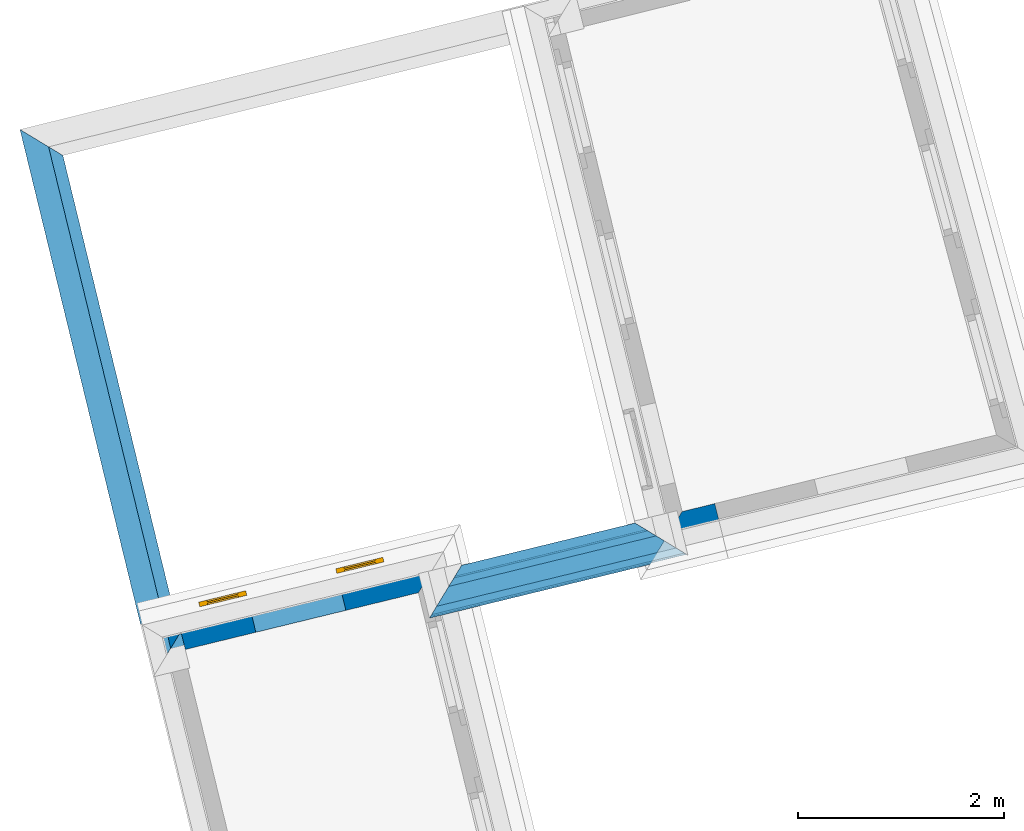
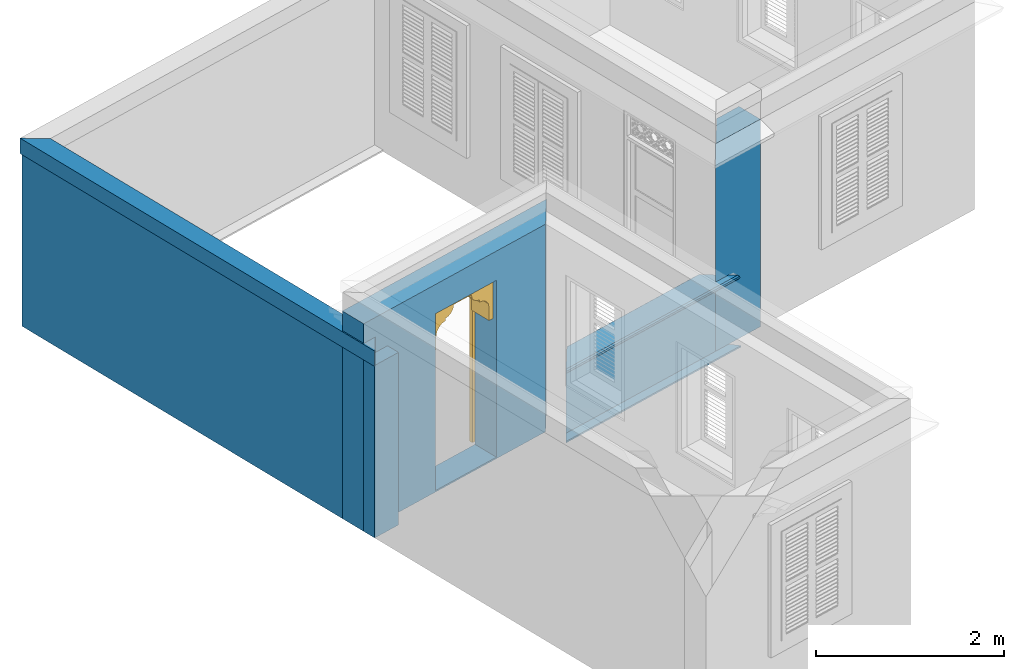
# One storey, part 2 of 7: 8 walls, 1 door, 1 opening.
"""IFC4 building model written with IfcOpenShell, lengths in metres."""

from ifc_helpers import new_model, si_unit, frame, origin, origin_with_axes, place, context, subcontext, project, spatial, polyline, outline, extrude, clip, halfspace, faceted_brep, source, transform, mapped, material, layer, layer_set, layer_usage, material_profile, profile_set, profile_usage, type_object, type_shapes, element, fill, save


model = new_model("IFC4")

# Units and contexts
model_context = context("Model", 3, world=origin_with_axes())
body_context = subcontext(model_context, "Body", "Model", "MODEL_VIEW")
ifc_project = project(units=[si_unit("PLANEANGLEUNIT", "RADIAN"), si_unit("MASSUNIT", "GRAM", prefix="KILO"), si_unit("FORCEUNIT", "NEWTON", prefix="KILO"), si_unit("LENGTHUNIT", "METRE"), si_unit("AREAUNIT", "SQUARE_METRE"), si_unit("VOLUMEUNIT", "CUBIC_METRE")], contexts=[model_context, model_context])

# Site, building, storey
site_placement = place(None, origin_with_axes())
site = spatial("IfcSite", under=ifc_project, at=site_placement, Name="Site plot-4", CompositionType="ELEMENT")
building_placement = place(None, origin_with_axes())
building = spatial("IfcBuilding", under=site, at=building_placement, Name="Building plot-4", CompositionType="ELEMENT")
storey_placement = place(None, frame((0.0, 0.0, 5.4), z_axis=(0.0, 0.0, 1.0), x_axis=(1.0, 0.0, 0.0)))
storey = spatial("IfcBuildingStorey", under=building, at=storey_placement, Name="plot-4 2", CompositionType="ELEMENT", Elevation=5.4)

# Wall
ifc_material = material(Name="Masonry")
ifc_layer = layer(ifc_material, 0.33, ventilated=False)
ifc_layer_set = layer_set([ifc_layer], Name="exterior_0.08_0.25")
ifc_layer_usage = layer_usage(ifc_layer_set, "AXIS2", "POSITIVE", -0.25)
wall_type_1 = type_object("IfcWallType", Name="exterior_0.08_0.25", PredefinedType="SOLIDWALL", material=ifc_layer_set)
wall_1_placement = place(storey_placement, frame((23.4069703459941, 15.6198881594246, 0.0), z_axis=(0.0, 0.0, 1.0), x_axis=(0.971605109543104, 0.236608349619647, 0.0)))
element("IfcWall", 1, at=wall_1_placement, inside=storey, type_object=wall_type_1, material=ifc_layer_usage, Name="exterior", context=body_context, shape_type="SweptSolid", body=[
    extrude(outline(polyline([(0.0800000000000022, 0.0800000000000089), (-0.250000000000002, -0.250000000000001), (0.407279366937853, -0.25), (0.407279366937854, 0.0800000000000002), (0.0800000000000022, 0.0800000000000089)])), origin_with_axes(), (0.0, 0.0, 1.0), 2.7),
])

# Wall, opening, door
wall_2_placement = place(storey_placement, frame((20.9644587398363, 15.0250800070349, 0.0), z_axis=(0.0, 0.0, 1.0), x_axis=(-0.971605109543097, -0.236608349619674, 0.0)))
wall_2 = element("IfcWall", 2, at=wall_2_placement, inside=storey, type_object=wall_type_1, material=ifc_layer_usage, Name="exterior", context=body_context, shape_type="SweptSolid", body=[
    extrude(outline(polyline([(0.0799999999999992, 0.0800000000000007), (-0.250000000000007, -0.249999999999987), (2.76001848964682, -0.25), (2.76001848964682, 0.0800000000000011), (0.0799999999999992, 0.0800000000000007)])), origin_with_axes(), (0.0, 0.0, 1.0), 2.7),
])
opening_placement = place(wall_2_placement, frame((0.805009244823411, 0.0, 0.0199999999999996)))
opening = element("IfcOpeningElement", 3, at=opening_placement, cuts=wall_2, Name="My Opening", ObjectType="Opening", context=body_context, shape_type="SweptSolid", body=[
    extrude(outline(polyline([(0.0, -0.27), (0.9, -0.27), (0.900000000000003, 1.1), (2.66453525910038e-15, 1.1), (0.0, -0.27)])), origin_with_axes(), (0.0, 0.0, 1.0), 2.3),
])
door_type = type_object("IfcDoorType", Name="arch-900x2300", OperationType="SINGLE_SWING_LEFT", PredefinedType="NOTDEFINED")
shared_shape = source(origin(), body_context, "Body", "Brep", [
    faceted_brep([(-0.08, -0.02, 0.08), (-0.08, -0.02, 0.0), (-0.39, -0.02, 0.0), (-0.39, -0.02, 0.08), (-0.47, -0.02, 0.0), (-0.47, -0.02, 0.08), (-0.39, -0.035, 0.08), (-0.08, -0.035, 0.08), (0.0, -0.02, 0.08), (0.0, -0.02, 0.0), (-0.08, -0.066, 0.0), (-0.39, -0.066, 0.0), (-0.47, -0.066, 0.0), (-0.47, -0.066, 0.08), (-0.39, -0.02, 0.743333), (-0.47, -0.02, 0.743333), (-0.39, -0.035, 0.743333), (-0.08, -0.035, 0.743333), (-0.08, -0.02, 0.743333), (0.0, -0.02, 0.743333), (0.0, -0.066, 0.08), (0.0, -0.066, 0.0), (-0.39, -0.066, 0.08), (-0.08, -0.066, 0.08), (-0.47, -0.066, 0.743333), (-0.39, -0.02, 0.823333), (-0.47, -0.02, 0.823333), (0.0, -0.066, 0.743333), (0.0, -0.02, 0.823333), (-0.08, -0.02, 0.823333), (-0.08, -0.051, 0.08), (-0.39, -0.051, 0.08), (-0.39, -0.066, 0.743333), (-0.47, -0.066, 0.823333), (-0.39, -0.02, 1.486667), (-0.47, -0.02, 1.486667), (0.0, -0.066, 0.823333), (-0.08, -0.066, 0.743333), (0.0, -0.02, 1.486667), (-0.08, -0.02, 1.486667), (-0.08, -0.051, 0.743333), (-0.39, -0.051, 0.743333), (-0.39, -0.066, 0.823333), (-0.47, -0.066, 1.486667), (-0.39, -0.035, 0.823333), (-0.08, -0.035, 0.823333), (-0.39, -0.035, 1.486667), (-0.39, -0.02, 1.566667), (-0.47, -0.02, 1.566667), (0.0, -0.066, 1.486667), (-0.08, -0.066, 0.823333), (-0.08, -0.035, 1.486667), (0.0, -0.02, 1.566667), (-0.08, -0.02, 1.566667), (-0.39, -0.066, 1.486667), (-0.47, -0.066, 1.566667), (-0.39, -0.02, 2.23), (-0.47, -0.02, 2.23), (0.0, -0.066, 1.566667), (-0.08, -0.066, 1.486667), (0.0, -0.02, 2.23), (-0.08, -0.02, 2.23), (-0.08, -0.051, 0.823333), (-0.39, -0.051, 0.823333), (-0.39, -0.051, 1.486667), (-0.39, -0.066, 1.566667), (-0.47, -0.066, 2.23), (-0.39, -0.035, 1.566667), (-0.08, -0.035, 1.566667), (-0.39, -0.035, 2.23), (-0.39, -0.02, 2.31), (-0.47, -0.02, 2.31), (0.0, -0.066, 2.23), (-0.08, -0.066, 1.566667), (-0.08, -0.051, 1.486667), (-0.08, -0.035, 2.23), (0.0, -0.02, 2.31), (-0.08, -0.02, 2.31), (-0.39, -0.066, 2.23), (-0.47, -0.066, 2.31), (-0.39, -0.066, 2.31), (0.0, -0.066, 2.31), (-0.08, -0.066, 2.23), (-0.08, -0.066, 2.31), (-0.08, -0.051, 1.566667), (-0.39, -0.051, 1.566667), (-0.39, -0.051, 2.23), (-0.08, -0.051, 2.23), (1.29, -0.02, 0.08), (1.29, -0.02, 0.0), (0.98, -0.02, 0.0), (0.98, -0.02, 0.08), (1.37, -0.02, 0.08), (1.37, -0.02, 0.0), (0.98, -0.035, 0.08), (1.29, -0.035, 0.08), (0.9, -0.02, 0.0), (0.9, -0.02, 0.08), (1.29, -0.066, 0.0), (0.98, -0.066, 0.0), (1.37, -0.066, 0.08), (1.37, -0.066, 0.0), (1.37, -0.02, 0.743333), (1.29, -0.02, 0.743333), (1.29, -0.035, 0.743333), (0.98, -0.035, 0.743333), (0.98, -0.02, 0.743333), (0.9, -0.02, 0.743333), (0.9, -0.066, 0.0), (0.9, -0.066, 0.08), (0.98, -0.066, 0.08), (1.29, -0.066, 0.08), (1.37, -0.066, 0.743333), (1.37, -0.02, 0.823333), (1.29, -0.02, 0.823333), (0.9, -0.066, 0.743333), (0.98, -0.02, 0.823333), (0.9, -0.02, 0.823333), (1.29, -0.051, 0.08), (0.98, -0.051, 0.08), (1.29, -0.066, 0.743333), (1.37, -0.066, 0.823333), (1.37, -0.02, 1.486667), (1.29, -0.02, 1.486667), (0.9, -0.066, 0.823333), (0.98, -0.066, 0.743333), (0.98, -0.02, 1.486667), (0.9, -0.02, 1.486667), (0.98, -0.051, 0.743333), (1.29, -0.051, 0.743333), (1.29, -0.066, 0.823333), (1.37, -0.066, 1.486667), (0.98, -0.035, 0.823333), (1.29, -0.035, 0.823333), (1.29, -0.035, 1.486667), (1.37, -0.02, 1.566667), (1.29, -0.02, 1.566667), (0.9, -0.066, 1.486667), (0.98, -0.066, 0.823333), (0.98, -0.035, 1.486667), (0.98, -0.02, 1.566667), (0.9, -0.02, 1.566667), (1.29, -0.066, 1.486667), (1.37, -0.066, 1.566667), (1.37, -0.02, 2.23), (1.29, -0.02, 2.23), (0.9, -0.066, 1.566667), (0.98, -0.066, 1.486667), (0.98, -0.02, 2.23), (0.9, -0.02, 2.23), (1.29, -0.051, 0.823333), (0.98, -0.051, 0.823333), (1.29, -0.051, 1.486667), (1.29, -0.066, 1.566667), (1.37, -0.066, 2.23), (0.98, -0.035, 1.566667), (1.29, -0.035, 1.566667), (1.29, -0.035, 2.23), (1.37, -0.02, 2.31), (1.29, -0.02, 2.31), (0.9, -0.066, 2.23), (0.98, -0.066, 1.566667), (0.98, -0.051, 1.486667), (0.98, -0.035, 2.23), (0.98, -0.02, 2.31), (0.9, -0.02, 2.31), (1.29, -0.066, 2.23), (1.37, -0.066, 2.31), (1.29, -0.066, 2.31), (0.9, -0.066, 2.31), (0.98, -0.066, 2.23), (0.98, -0.066, 2.31), (1.29, -0.051, 1.566667), (0.98, -0.051, 1.566667), (1.29, -0.051, 2.23), (0.98, -0.051, 2.23), (0.9, 0.03, 1.78), (0.9, 0.03, 1.95), (0.84, 0.03, 1.95), (0.84, 0.03, 1.78), (0.84, 0.3, 1.95), (0.84, 0.3, 1.78), (0.9, 0.03, 2.12), (0.829, 0.03, 2.004), (0.9, 0.3, 1.78), (0.9, 0.3, 1.95), (0.829, 0.3, 2.004), (0.799, 0.03, 2.049), (0.9, 0.3, 2.12), (0.799, 0.3, 2.049), (0.754, 0.03, 2.079), (0.9, 0.3, 2.29), (0.9, 0.03, 2.29), (0.754, 0.3, 2.079), (0.7, 0.03, 2.09), (0.7, 0.03, 2.12), (0.654, 0.03, 2.129), (0.58, 0.3, 2.29), (0.58, 0.03, 2.29), (0.7, 0.3, 2.12), (0.654, 0.3, 2.129), (0.7, 0.3, 2.09), (0.615, 0.03, 2.155), (0.589, 0.3, 2.194), (0.58, 0.3, 2.24), (0.58, 0.03, 2.24), (0.589, 0.03, 2.194), (0.615, 0.3, 2.155), (0.06, 0.03, 1.78), (0.06, 0.03, 1.95), (0.0, 0.03, 1.95), (0.0, 0.03, 1.78), (0.06, 0.3, 1.78), (0.06, 0.3, 1.95), (0.071, 0.03, 2.004), (0.0, 0.03, 2.12), (0.0, 0.3, 1.95), (0.0, 0.3, 1.78), (0.071, 0.3, 2.004), (0.101, 0.03, 2.049), (0.0, 0.3, 2.12), (0.101, 0.3, 2.049), (0.146, 0.03, 2.079), (0.0, 0.03, 2.29), (0.0, 0.3, 2.29), (0.146, 0.3, 2.079), (0.2, 0.03, 2.12), (0.2, 0.03, 2.09), (0.246, 0.03, 2.129), (0.32, 0.03, 2.29), (0.32, 0.3, 2.29), (0.246, 0.3, 2.129), (0.2, 0.3, 2.12), (0.2, 0.3, 2.09), (0.285, 0.03, 2.155), (0.32, 0.3, 2.24), (0.311, 0.3, 2.194), (0.311, 0.03, 2.194), (0.32, 0.03, 2.24), (0.285, 0.3, 2.155)], [[[0, 1, 2, 3]], [[4, 5, 3, 2]], [[0, 3, 6, 7]], [[1, 0, 8, 9]], [[2, 1, 10, 11]], [[5, 4, 12, 13]], [[14, 3, 5, 15]], [[4, 2, 11, 12]], [[3, 14, 16, 6]], [[6, 16, 17, 7]], [[18, 0, 7, 17]], [[0, 18, 19, 8]], [[9, 8, 20, 21]], [[1, 9, 21, 10]], [[22, 11, 10, 23]], [[13, 12, 11, 22]], [[15, 5, 13, 24]], [[25, 14, 15, 26]], [[14, 18, 17, 16]], [[8, 19, 27, 20]], [[28, 19, 18, 29]], [[23, 10, 21, 20]], [[22, 23, 30, 31]], [[22, 32, 24, 13]], [[26, 15, 24, 33]], [[29, 18, 14, 25]], [[34, 25, 26, 35]], [[19, 28, 36, 27]], [[20, 27, 37, 23]], [[38, 28, 29, 39]], [[23, 37, 40, 30]], [[41, 31, 30, 40]], [[32, 22, 31, 41]], [[32, 42, 33, 24]], [[35, 26, 33, 43]], [[29, 25, 44, 45]], [[25, 34, 46, 44]], [[47, 34, 35, 48]], [[28, 38, 49, 36]], [[27, 36, 50, 37]], [[39, 29, 45, 51]], [[52, 38, 39, 53]], [[37, 32, 41, 40]], [[37, 50, 42, 32]], [[42, 54, 43, 33]], [[48, 35, 43, 55]], [[44, 46, 51, 45]], [[34, 39, 51, 46]], [[34, 47, 53, 39]], [[56, 47, 48, 57]], [[38, 52, 58, 49]], [[36, 49, 59, 50]], [[60, 52, 53, 61]], [[42, 50, 62, 63]], [[54, 42, 63, 64]], [[54, 65, 55, 43]], [[57, 48, 55, 66]], [[53, 47, 67, 68]], [[47, 56, 69, 67]], [[70, 56, 57, 71]], [[52, 60, 72, 58]], [[49, 58, 73, 59]], [[50, 59, 74, 62]], [[61, 53, 68, 75]], [[76, 60, 61, 77]], [[64, 63, 62, 74]], [[59, 54, 64, 74]], [[65, 54, 59, 73]], [[65, 78, 66, 55]], [[71, 57, 66, 79]], [[67, 69, 75, 68]], [[56, 61, 75, 69]], [[77, 61, 56, 70]], [[70, 71, 79, 80]], [[60, 76, 81, 72]], [[58, 72, 82, 73]], [[76, 77, 83, 81]], [[65, 73, 84, 85]], [[78, 65, 85, 86]], [[78, 80, 79, 66]], [[77, 70, 80, 83]], [[72, 81, 83, 82]], [[73, 82, 87, 84]], [[86, 85, 84, 87]], [[82, 78, 86, 87]], [[82, 83, 80, 78]], [[88, 89, 90, 91]], [[89, 88, 92, 93]], [[94, 95, 88, 91]], [[96, 97, 91, 90]], [[98, 99, 90, 89]], [[100, 101, 93, 92]], [[102, 92, 88, 103]], [[101, 98, 89, 93]], [[95, 104, 103, 88]], [[94, 105, 104, 95]], [[105, 94, 91, 106]], [[97, 107, 106, 91]], [[108, 109, 97, 96]], [[99, 108, 96, 90]], [[110, 99, 98, 111]], [[111, 98, 101, 100]], [[112, 100, 92, 102]], [[113, 102, 103, 114]], [[104, 105, 106, 103]], [[109, 115, 107, 97]], [[116, 106, 107, 117]], [[109, 108, 99, 110]], [[118, 119, 110, 111]], [[100, 112, 120, 111]], [[121, 112, 102, 113]], [[114, 103, 106, 116]], [[122, 113, 114, 123]], [[115, 124, 117, 107]], [[110, 125, 115, 109]], [[126, 116, 117, 127]], [[119, 128, 125, 110]], [[128, 119, 118, 129]], [[129, 118, 111, 120]], [[112, 121, 130, 120]], [[131, 121, 113, 122]], [[132, 133, 114, 116]], [[133, 134, 123, 114]], [[135, 122, 123, 136]], [[124, 137, 127, 117]], [[125, 138, 124, 115]], [[139, 132, 116, 126]], [[140, 126, 127, 141]], [[128, 129, 120, 125]], [[120, 130, 138, 125]], [[121, 131, 142, 130]], [[143, 131, 122, 135]], [[132, 139, 134, 133]], [[134, 139, 126, 123]], [[126, 140, 136, 123]], [[144, 135, 136, 145]], [[137, 146, 141, 127]], [[138, 147, 137, 124]], [[148, 140, 141, 149]], [[150, 151, 138, 130]], [[152, 150, 130, 142]], [[131, 143, 153, 142]], [[154, 143, 135, 144]], [[155, 156, 136, 140]], [[156, 157, 145, 136]], [[158, 144, 145, 159]], [[146, 160, 149, 141]], [[147, 161, 146, 137]], [[151, 162, 147, 138]], [[163, 155, 140, 148]], [[164, 148, 149, 165]], [[162, 151, 150, 152]], [[162, 152, 142, 147]], [[161, 147, 142, 153]], [[143, 154, 166, 153]], [[167, 154, 144, 158]], [[155, 163, 157, 156]], [[157, 163, 148, 145]], [[159, 145, 148, 164]], [[168, 167, 158, 159]], [[160, 169, 165, 149]], [[161, 170, 160, 146]], [[169, 171, 164, 165]], [[172, 173, 161, 153]], [[174, 172, 153, 166]], [[154, 167, 168, 166]], [[171, 168, 159, 164]], [[170, 171, 169, 160]], [[173, 175, 170, 161]], [[175, 173, 172, 174]], [[175, 174, 166, 170]], [[166, 168, 171, 170]], [[176, 177, 178, 179]], [[180, 181, 179, 178]], [[177, 182, 183, 178]], [[177, 176, 184, 185]], [[181, 184, 176, 179]], [[181, 180, 185, 184]], [[186, 180, 178, 183]], [[182, 187, 183]], [[182, 177, 185, 188]], [[180, 186, 188, 185]], [[189, 186, 183, 187]], [[182, 190, 187]], [[188, 191, 192, 182]], [[188, 186, 189]], [[193, 189, 187, 190]], [[194, 190, 182, 195]], [[182, 192, 196, 195]], [[192, 191, 197, 198]], [[199, 200, 191, 188]], [[188, 189, 193]], [[201, 193, 190, 194]], [[199, 201, 194, 195]], [[200, 199, 195, 196]], [[192, 202, 196]], [[191, 203, 204, 197]], [[192, 198, 205, 206]], [[207, 191, 200]], [[199, 188, 193, 201]], [[207, 200, 196, 202]], [[192, 206, 202]], [[204, 203, 206, 205]], [[203, 191, 207]], [[203, 207, 202, 206]], [[208, 209, 210, 211]], [[209, 208, 212, 213]], [[209, 214, 215, 210]], [[211, 210, 216, 217]], [[208, 211, 217, 212]], [[217, 216, 213, 212]], [[214, 209, 213, 218]], [[214, 219, 215]], [[220, 216, 210, 215]], [[216, 220, 218, 213]], [[219, 214, 218, 221]], [[219, 222, 215]], [[215, 223, 224, 220]], [[221, 218, 220]], [[222, 219, 221, 225]], [[226, 215, 222, 227]], [[226, 228, 223, 215]], [[229, 230, 224, 223]], [[220, 224, 231, 232]], [[225, 221, 220]], [[227, 222, 225, 233]], [[226, 227, 233, 232]], [[228, 226, 232, 231]], [[228, 234, 223]], [[230, 235, 236, 224]], [[237, 238, 229, 223]], [[231, 224, 239]], [[233, 225, 220, 232]], [[234, 228, 231, 239]], [[234, 237, 223]], [[238, 237, 236, 235]], [[239, 224, 236]], [[237, 234, 239, 236]], [[238, 235, 204, 205]], [[235, 230, 197, 204]], [[229, 238, 205, 198]], [[230, 229, 198, 197]]]),
])
type_shapes(door_type, [shared_shape])
door_placement = place(storey_placement, frame((20.1184233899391, 15.0969414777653, 0.0199999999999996), z_axis=(0.0, 0.0, 1.0), x_axis=(-0.874444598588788, -0.212947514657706, 0.0)))
door = element("IfcDoor", 4, at=door_placement, inside=storey, type_object=door_type, Name="circulation sahn door", OverallHeight=2.3, OverallWidth=0.9, context=body_context, shape_type="MappedRepresentation", body=[
    mapped(shared_shape, transform((0.0, 0.0, 0.0), scale=1.0)),
])
fill(opening, door)

# Walls
ifc_material_profile_1 = material_profile(None, outline(polyline([(0.25, 0.0), (0.25, 2.245), (0.05, 2.245), (0.05, 0.02), (-0.08, 0.02), (-0.08, 0.0), (0.25, 0.0)])))
ifc_profile_set_1 = profile_set([ifc_material_profile_1])
ifc_profile_usage_1 = profile_usage(ifc_profile_set_1)
wall_type_2 = type_object("IfcWallType", Name="parapet party_0", PredefinedType="PARAPET", material=ifc_profile_set_1)
wall_3_placement = place(storey_placement, frame((18.7623202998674, 13.4595835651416, 0.0), z_axis=(-0.236608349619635, 0.971605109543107, 0.0), x_axis=(-0.971605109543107, -0.236608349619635, 0.0)))
element("IfcWall", 5, at=wall_3_placement, inside=storey, type_object=wall_type_2, material=ifc_profile_usage_1, Name="parapet party_0", context=body_context, shape_type="Clipping", body=[
    clip(clip(extrude(outline(polyline([(0.25, 0.0), (0.25, 2.245), (0.05, 2.245), (0.05, 0.02), (-0.08, 0.02), (-0.08, 0.0), (0.25, 0.0)])), origin_with_axes(), (0.0, 0.0, 1.0), 6.94233801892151), halfspace(frame((0.0, 0.0, 5.94233801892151), z_axis=(0.705779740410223, 0.0, -0.708431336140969), x_axis=(0.0, 1.0, 0.0)), True)), halfspace(frame((0.0, 0.0, 1.0), z_axis=(-0.707106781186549, 0.0, -0.707106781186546), x_axis=(0.0, 1.0, 0.0)), False)),
])
ifc_profile_usage_2 = profile_usage(ifc_profile_set_1)
wall_4_placement = place(storey_placement, frame((19.5944775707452, 14.6914578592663, 0.0), z_axis=(-0.971605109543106, -0.23660834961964, 0.0), x_axis=(0.23660834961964, -0.971605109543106, 0.0)))
element("IfcWall", 6, at=wall_4_placement, inside=storey, type_object=wall_type_2, material=ifc_profile_usage_2, Name="parapet party_0", context=body_context, shape_type="Clipping", body=[
    clip(clip(extrude(outline(polyline([(0.25, 0.0), (0.25, 2.245), (0.05, 2.245), (0.05, 0.02), (-0.08, 0.02), (-0.08, 0.0), (0.25, 0.0)])), origin_with_axes(), (0.0, 0.0, 1.0), 2.1), halfspace(frame((0.0, 0.0, 1.1), z_axis=(0.70710678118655, 0.0, -0.707106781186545), x_axis=(0.0, 1.0, 0.0)), True)), halfspace(frame((0.0, 0.0, 1.0), z_axis=(-6.12323399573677e-17, 0.0, -1.0), x_axis=(0.0, 1.0, 0.0)), False)),
])
ifc_material_profile_2 = material_profile(None, outline(polyline([(0.265, 2.245), (0.265, 2.445), (0.035, 2.445), (0.035, 2.245), (0.265, 2.245)])))
ifc_profile_set_2 = profile_set([ifc_material_profile_2])
ifc_profile_usage_3 = profile_usage(ifc_profile_set_2)
wall_type_3 = type_object("IfcWallType", Name="parapet party_1", PredefinedType="PARAPET", material=ifc_profile_set_2)
wall_5_placement = place(storey_placement, frame((18.7623202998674, 13.4595835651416, 0.0), z_axis=(-0.236608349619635, 0.971605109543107, 0.0), x_axis=(-0.971605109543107, -0.236608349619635, 0.0)))
element("IfcWall", 7, at=wall_5_placement, inside=storey, type_object=wall_type_3, material=ifc_profile_usage_3, Name="parapet party_1", context=body_context, shape_type="Clipping", body=[
    clip(clip(extrude(outline(polyline([(0.265, 2.245), (0.265, 2.445), (0.035, 2.445), (0.035, 2.245), (0.265, 2.245)])), origin_with_axes(), (0.0, 0.0, 1.0), 6.94233801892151), halfspace(frame((0.0, 0.0, 5.94233801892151), z_axis=(0.705779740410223, 0.0, -0.708431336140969), x_axis=(0.0, 1.0, 0.0)), True)), halfspace(frame((0.0, 0.0, 1.0), z_axis=(-0.707106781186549, 0.0, -0.707106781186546), x_axis=(0.0, 1.0, 0.0)), False)),
])
ifc_material_profile_3 = material_profile(None, outline(polyline([(0.25, 0.0), (0.25, 0.795), (0.09, 0.795), (0.09, 0.02), (-0.08, 0.02), (-0.08, 0.0), (0.25, 0.0)])))
ifc_profile_set_3 = profile_set([ifc_material_profile_3])
ifc_profile_usage_4 = profile_usage(ifc_profile_set_3)
wall_type_4 = type_object("IfcWallType", Name="parapet internal_0", PredefinedType="PARAPET", material=ifc_profile_set_3)
wall_6_placement = place(storey_placement, frame((24.0773778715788, 15.7831479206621, 0.0), z_axis=(-0.971605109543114, -0.236608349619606, 0.0), x_axis=(0.236608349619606, -0.971605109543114, 0.0)))
element("IfcWall", 8, at=wall_6_placement, inside=storey, type_object=wall_type_4, material=ifc_profile_usage_4, Name="parapet internal_0", context=body_context, shape_type="Clipping", body=[
    clip(clip(extrude(outline(polyline([(0.25, 0.0), (0.25, 0.795), (0.09, 0.795), (0.09, 0.02), (-0.08, 0.02), (-0.08, 0.0), (0.25, 0.0)])), origin_with_axes(), (0.0, 0.0, 1.0), 3.89389333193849), halfspace(frame((0.0, 0.0, 2.89389333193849), z_axis=(0.707106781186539, 0.0, -0.707106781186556), x_axis=(0.0, 1.0, 0.0)), True)), halfspace(frame((0.0, 0.0, 1.0), z_axis=(-0.707106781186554, 0.0, -0.70710678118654), x_axis=(0.0, 1.0, 0.0)), False)),
])
ifc_material_profile_4 = material_profile(None, outline(polyline([(0.265, 0.795), (0.268, 0.807), (0.274, 0.816), (0.283, 0.822), (0.295, 0.825), (0.295, 0.84), (0.305, 0.84), (0.317, 0.842), (0.326, 0.849), (0.333, 0.858), (0.335, 0.87), (0.333, 0.882), (0.326, 0.891), (0.317, 0.898), (0.305, 0.9), (0.035, 0.9), (0.023, 0.898), (0.014, 0.891), (0.007, 0.882), (0.005, 0.87), (0.007, 0.858), (0.014, 0.849), (0.023, 0.842), (0.035, 0.84), (0.045, 0.84), (0.045, 0.825), (0.057, 0.822), (0.066, 0.816), (0.072, 0.807), (0.075, 0.795), (0.265, 0.795)])))
ifc_profile_set_4 = profile_set([ifc_material_profile_4])
ifc_profile_usage_5 = profile_usage(ifc_profile_set_4)
wall_type_5 = type_object("IfcWallType", Name="parapet internal_1", PredefinedType="PARAPET", material=ifc_profile_set_4)
wall_7_placement = place(storey_placement, frame((24.0773778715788, 15.7831479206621, 0.0), z_axis=(-0.971605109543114, -0.236608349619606, 0.0), x_axis=(0.236608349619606, -0.971605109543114, 0.0)))
element("IfcWall", 9, at=wall_7_placement, inside=storey, type_object=wall_type_5, material=ifc_profile_usage_5, Name="parapet internal_1", context=body_context, shape_type="Clipping", body=[
    clip(clip(extrude(outline(polyline([(0.265, 0.795), (0.268, 0.807), (0.274, 0.816), (0.283, 0.822), (0.295, 0.825), (0.295, 0.84), (0.305, 0.84), (0.317, 0.842), (0.326, 0.849), (0.333, 0.858), (0.335, 0.87), (0.333, 0.882), (0.326, 0.891), (0.317, 0.898), (0.305, 0.9), (0.035, 0.9), (0.023, 0.898), (0.014, 0.891), (0.007, 0.882), (0.005, 0.87), (0.007, 0.858), (0.014, 0.849), (0.023, 0.842), (0.035, 0.84), (0.045, 0.84), (0.045, 0.825), (0.057, 0.822), (0.066, 0.816), (0.072, 0.807), (0.075, 0.795), (0.265, 0.795)])), origin_with_axes(), (0.0, 0.0, 1.0), 3.89389333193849), halfspace(frame((0.0, 0.0, 2.89389333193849), z_axis=(0.707106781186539, 0.0, -0.707106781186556), x_axis=(0.0, 1.0, 0.0)), True)), halfspace(frame((0.0, 0.0, 1.0), z_axis=(-0.707106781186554, 0.0, -0.70710678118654), x_axis=(0.0, 1.0, 0.0)), False)),
])
ifc_material_profile_5 = material_profile(None, outline(polyline([(0.25, -0.1), (0.265, -0.1), (0.265, -0.085), (0.278, -0.084), (0.289, -0.081), (0.301, -0.074), (0.309, -0.065), (0.315, -0.055), (0.324, -0.044), (0.334, -0.038), (0.345, -0.035), (0.345, -0.015), (0.25, 0.0), (0.25, -0.1)])))
ifc_profile_set_5 = profile_set([ifc_material_profile_5])
ifc_profile_usage_6 = profile_usage(ifc_profile_set_5)
wall_type_6 = type_object("IfcWallType", Name="parapet internal_2", PredefinedType="PARAPET", material=ifc_profile_set_5)
wall_8_placement = place(storey_placement, frame((24.0773778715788, 15.7831479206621, 0.0), z_axis=(-0.971605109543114, -0.236608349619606, 0.0), x_axis=(0.236608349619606, -0.971605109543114, 0.0)))
element("IfcWall", 10, at=wall_8_placement, inside=storey, type_object=wall_type_6, material=ifc_profile_usage_6, Name="parapet internal_2", context=body_context, shape_type="Clipping", body=[
    clip(clip(extrude(outline(polyline([(0.25, -0.1), (0.265, -0.1), (0.265, -0.085), (0.278, -0.084), (0.289, -0.081), (0.301, -0.074), (0.309, -0.065), (0.315, -0.055), (0.324, -0.044), (0.334, -0.038), (0.345, -0.035), (0.345, -0.015), (0.25, 0.0), (0.25, -0.1)])), origin_with_axes(), (0.0, 0.0, 1.0), 3.89389333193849), halfspace(frame((0.0, 0.0, 2.89389333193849), z_axis=(0.707106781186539, 0.0, -0.707106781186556), x_axis=(0.0, 1.0, 0.0)), True)), halfspace(frame((0.0, 0.0, 1.0), z_axis=(-0.707106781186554, 0.0, -0.70710678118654), x_axis=(0.0, 1.0, 0.0)), False)),
])

save(model, "model.ifc")
